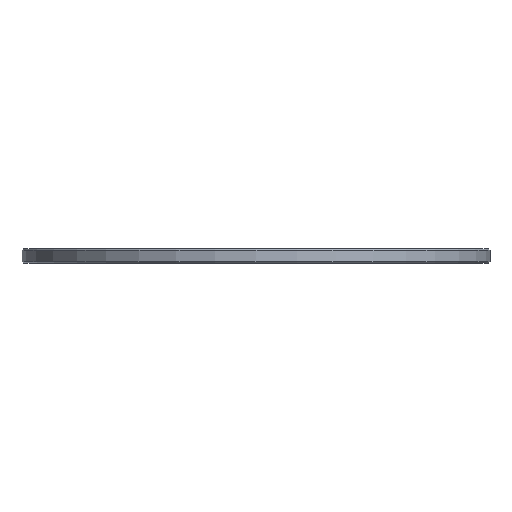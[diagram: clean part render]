
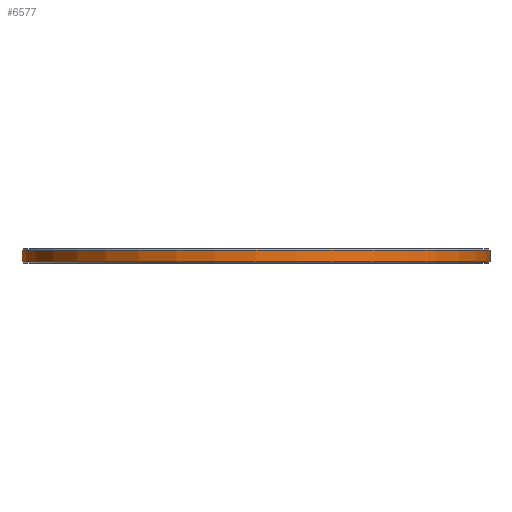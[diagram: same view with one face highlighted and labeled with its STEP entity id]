
A CAD part, front view. The second image highlights one B-rep face of the part: STEP entity #6577.
In plain terms, the highlighted cylindrical face has radius 50 mm (diameter 100 mm), a full revolution.
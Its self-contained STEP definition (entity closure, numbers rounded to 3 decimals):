
#80=CYLINDRICAL_SURFACE('',#7005,50.);
#672=FACE_OUTER_BOUND('',#1063,.T.);
#1063=EDGE_LOOP('',(#6063,#6064,#6065,#6066));
#1172=CIRCLE('',#7004,50.);
#1173=CIRCLE('',#7006,50.);
#1986=LINE('',#10508,#2813);
#2813=VECTOR('',#8611,50.);
#3418=VERTEX_POINT('',#10502);
#3419=VERTEX_POINT('',#10506);
#4303=EDGE_CURVE('',#3418,#3418,#1172,.T.);
#4305=EDGE_CURVE('',#3419,#3419,#1173,.T.);
#4306=EDGE_CURVE('',#3419,#3418,#1986,.T.);
#6063=ORIENTED_EDGE('',*,*,#4305,.F.);
#6064=ORIENTED_EDGE('',*,*,#4306,.T.);
#6065=ORIENTED_EDGE('',*,*,#4303,.F.);
#6066=ORIENTED_EDGE('',*,*,#4306,.F.);
#6577=ADVANCED_FACE('',(#672),#80,.T.);
#7004=AXIS2_PLACEMENT_3D('',#10503,#8604,#8605);
#7005=AXIS2_PLACEMENT_3D('',#10505,#8607,#8608);
#7006=AXIS2_PLACEMENT_3D('',#10507,#8609,#8610);
#8604=DIRECTION('center_axis',(0.,0.,-1.));
#8605=DIRECTION('ref_axis',(1.,0.,0.));
#8607=DIRECTION('center_axis',(0.,0.,1.));
#8608=DIRECTION('ref_axis',(1.,0.,0.));
#8609=DIRECTION('center_axis',(0.,0.,1.));
#8610=DIRECTION('ref_axis',(1.,0.,0.));
#8611=DIRECTION('',(0.,0.,-1.));
#10502=CARTESIAN_POINT('',(-50.,0.,0.3));
#10503=CARTESIAN_POINT('Origin',(0.,0.,0.3));
#10505=CARTESIAN_POINT('Origin',(0.,0.,0.));
#10506=CARTESIAN_POINT('',(-50.,0.,2.825));
#10507=CARTESIAN_POINT('Origin',(0.,0.,2.825));
#10508=CARTESIAN_POINT('',(-50.,0.,0.));
